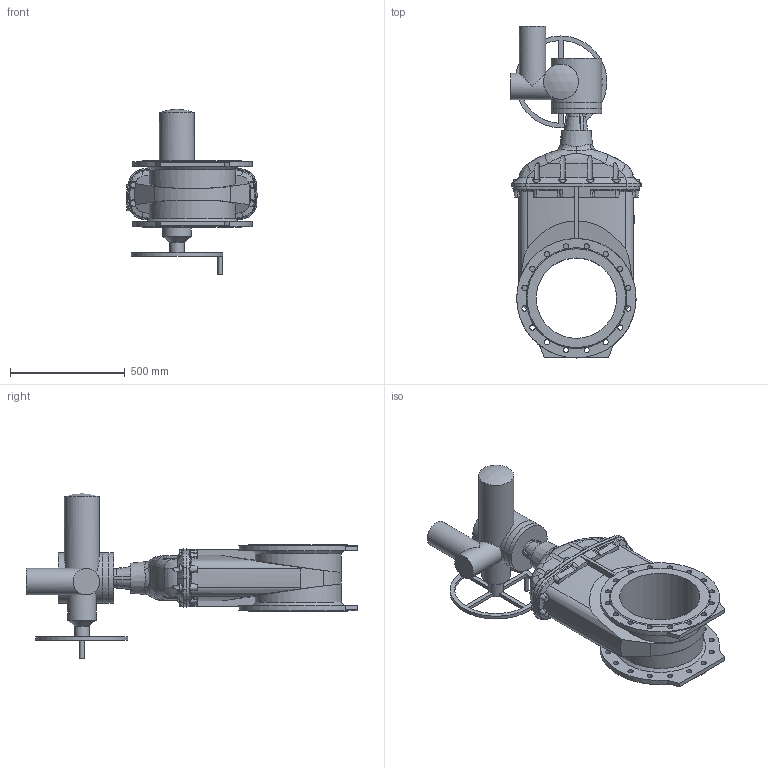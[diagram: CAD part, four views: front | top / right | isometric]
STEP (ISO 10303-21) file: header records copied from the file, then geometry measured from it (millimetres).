
FILE_DESCRIPTION (( 'STEP AP203' ), '1' );
FILE_NAME ('O_15_40_DN350_X0X_SA14.6_AA0.step', '2017-03-20T12:10:39', ( 'Windows User' ), ( 'AVK' ), 'SwSTEP 2.0', 'SolidWorks 2012', '' );
FILE_SCHEMA (( 'CONFIG_CONTROL_DESIGN' ));
Length unit declared in the file: inch
Products named in the file (1): O_15_40_DN350_X0X_SA14.6_AA0
Bounding box: 567 x 1445.5 x 721 mm (x, y, z)
Volume: 76956339.5 mm3; surface area: 2638803.8 mm2
Topology: 1 solids, 1 shells, 366 faces, 1114 edges, 726 vertices
Faces by surface type: plane 114, cone 89, cylinder 80, bspline 51, torus 31, sphere 1
Full cylindrical faces by diameter (mm): 20 x1, 23 x32, 62.64 x1, 115 x2, 124.727 x1, 153 x1, 220 x3, 350 x1, 400 x1, 520 x2
Entity records: 19729 total; most frequent: CARTESIAN_POINT 10728, ORIENTED_EDGE 2040, DIRECTION 1610, EDGE_CURVE 1020, AXIS2_PLACEMENT_3D 686, VERTEX_POINT 682, EDGE_LOOP 466, FACE_OUTER_BOUND 411
